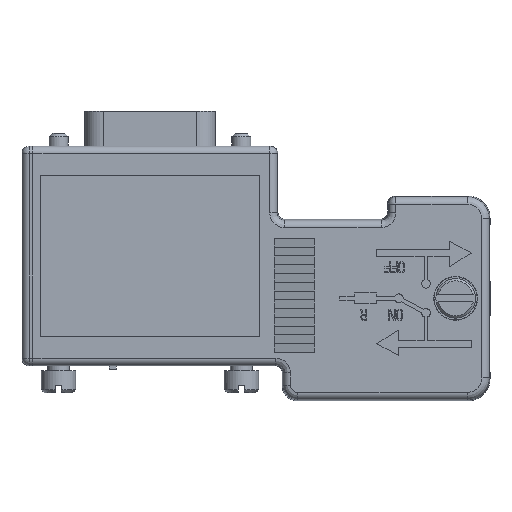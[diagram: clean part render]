
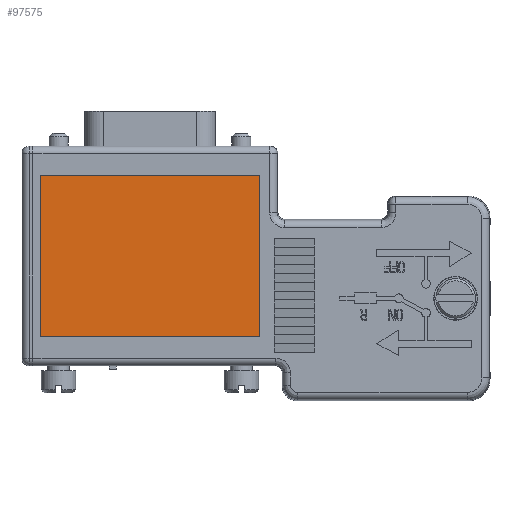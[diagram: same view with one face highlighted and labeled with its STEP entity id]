
A CAD part, top view. The second image highlights one B-rep face of the part: STEP entity #97575.
In plain terms, the highlighted planar face has unit normal (0, 0, 1).
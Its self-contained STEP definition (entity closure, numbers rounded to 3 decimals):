
#62581 = PLANE('',#62582);
#62582 = AXIS2_PLACEMENT_3D('',#62583,#62584,#62585);
#62583 = CARTESIAN_POINT('',(0.,-11.,7.7));
#62584 = DIRECTION('',(0.,-1.,0.));
#62585 = DIRECTION('',(0.,0.,-1.));
#62609 = PLANE('',#62610);
#62610 = AXIS2_PLACEMENT_3D('',#62611,#62612,#62613);
#62611 = CARTESIAN_POINT('',(-15.,0.,7.7));
#62612 = DIRECTION('',(-1.,0.,0.));
#62613 = DIRECTION('',(0.,0.,1.));
#62637 = PLANE('',#62638);
#62638 = AXIS2_PLACEMENT_3D('',#62639,#62640,#62641);
#62639 = CARTESIAN_POINT('',(0.,11.,7.7));
#62640 = DIRECTION('',(0.,1.,0.));
#62641 = DIRECTION('',(0.,0.,1.));
#62663 = PLANE('',#62664);
#62664 = AXIS2_PLACEMENT_3D('',#62665,#62666,#62667);
#62665 = CARTESIAN_POINT('',(15.,0.,7.7));
#62666 = DIRECTION('',(1.,0.,0.));
#62667 = DIRECTION('',(0.,0.,-1.));
#73587 = VERTEX_POINT('',#73588);
#73588 = CARTESIAN_POINT('',(15.,-11.,8.5));
#73609 = EDGE_CURVE('',#73610,#73587,#73612,.T.);
#73610 = VERTEX_POINT('',#73611);
#73611 = CARTESIAN_POINT('',(-15.,-11.,8.5));
#73612 = SURFACE_CURVE('',#73613,(#73617,#73624),.PCURVE_S1.);
#73613 = LINE('',#73614,#73615);
#73614 = CARTESIAN_POINT('',(-15.,-11.,8.5));
#73615 = VECTOR('',#73616,1.);
#73616 = DIRECTION('',(1.,0.,0.));
#73617 = PCURVE('',#62581,#73618);
#73618 = DEFINITIONAL_REPRESENTATION('',(#73619),#73623);
#73619 = LINE('',#73620,#73621);
#73620 = CARTESIAN_POINT('',(-0.8,-15.));
#73621 = VECTOR('',#73622,1.);
#73622 = DIRECTION('',(0.,1.));
#73623 = ( GEOMETRIC_REPRESENTATION_CONTEXT(2) 
PARAMETRIC_REPRESENTATION_CONTEXT() REPRESENTATION_CONTEXT('2D SPACE',''
  ) );
#73624 = PCURVE('',#73625,#73630);
#73625 = PLANE('',#73626);
#73626 = AXIS2_PLACEMENT_3D('',#73627,#73628,#73629);
#73627 = CARTESIAN_POINT('',(18.,-18.7,8.5));
#73628 = DIRECTION('',(0.,0.,1.));
#73629 = DIRECTION('',(0.,-1.,0.));
#73630 = DEFINITIONAL_REPRESENTATION('',(#73631),#73635);
#73631 = LINE('',#73632,#73633);
#73632 = CARTESIAN_POINT('',(-7.7,-33.));
#73633 = VECTOR('',#73634,1.);
#73634 = DIRECTION('',(0.,1.));
#73635 = ( GEOMETRIC_REPRESENTATION_CONTEXT(2) 
PARAMETRIC_REPRESENTATION_CONTEXT() REPRESENTATION_CONTEXT('2D SPACE',''
  ) );
#73663 = EDGE_CURVE('',#73664,#73610,#73666,.T.);
#73664 = VERTEX_POINT('',#73665);
#73665 = CARTESIAN_POINT('',(-15.,11.,8.5));
#73666 = SURFACE_CURVE('',#73667,(#73671,#73678),.PCURVE_S1.);
#73667 = LINE('',#73668,#73669);
#73668 = CARTESIAN_POINT('',(-15.,-18.7,8.5));
#73669 = VECTOR('',#73670,1.);
#73670 = DIRECTION('',(0.,-1.,0.));
#73671 = PCURVE('',#62609,#73672);
#73672 = DEFINITIONAL_REPRESENTATION('',(#73673),#73677);
#73673 = LINE('',#73674,#73675);
#73674 = CARTESIAN_POINT('',(0.8,-18.7));
#73675 = VECTOR('',#73676,1.);
#73676 = DIRECTION('',(0.,-1.));
#73677 = ( GEOMETRIC_REPRESENTATION_CONTEXT(2) 
PARAMETRIC_REPRESENTATION_CONTEXT() REPRESENTATION_CONTEXT('2D SPACE',''
  ) );
#73678 = PCURVE('',#73625,#73679);
#73679 = DEFINITIONAL_REPRESENTATION('',(#73680),#73684);
#73680 = LINE('',#73681,#73682);
#73681 = CARTESIAN_POINT('',(0.,-33.));
#73682 = VECTOR('',#73683,1.);
#73683 = DIRECTION('',(1.,0.));
#73684 = ( GEOMETRIC_REPRESENTATION_CONTEXT(2) 
PARAMETRIC_REPRESENTATION_CONTEXT() REPRESENTATION_CONTEXT('2D SPACE',''
  ) );
#73712 = EDGE_CURVE('',#73713,#73664,#73715,.T.);
#73713 = VERTEX_POINT('',#73714);
#73714 = CARTESIAN_POINT('',(15.,11.,8.5));
#73715 = SURFACE_CURVE('',#73716,(#73720,#73727),.PCURVE_S1.);
#73716 = LINE('',#73717,#73718);
#73717 = CARTESIAN_POINT('',(15.,11.,8.5));
#73718 = VECTOR('',#73719,1.);
#73719 = DIRECTION('',(-1.,0.,0.));
#73720 = PCURVE('',#62637,#73721);
#73721 = DEFINITIONAL_REPRESENTATION('',(#73722),#73726);
#73722 = LINE('',#73723,#73724);
#73723 = CARTESIAN_POINT('',(0.8,15.));
#73724 = VECTOR('',#73725,1.);
#73725 = DIRECTION('',(0.,-1.));
#73726 = ( GEOMETRIC_REPRESENTATION_CONTEXT(2) 
PARAMETRIC_REPRESENTATION_CONTEXT() REPRESENTATION_CONTEXT('2D SPACE',''
  ) );
#73727 = PCURVE('',#73625,#73728);
#73728 = DEFINITIONAL_REPRESENTATION('',(#73729),#73733);
#73729 = LINE('',#73730,#73731);
#73730 = CARTESIAN_POINT('',(-29.7,-3.));
#73731 = VECTOR('',#73732,1.);
#73732 = DIRECTION('',(0.,-1.));
#73733 = ( GEOMETRIC_REPRESENTATION_CONTEXT(2) 
PARAMETRIC_REPRESENTATION_CONTEXT() REPRESENTATION_CONTEXT('2D SPACE',''
  ) );
#73761 = EDGE_CURVE('',#73587,#73713,#73762,.T.);
#73762 = SURFACE_CURVE('',#73763,(#73767,#73774),.PCURVE_S1.);
#73763 = LINE('',#73764,#73765);
#73764 = CARTESIAN_POINT('',(15.,-11.,8.5));
#73765 = VECTOR('',#73766,1.);
#73766 = DIRECTION('',(0.,1.,0.));
#73767 = PCURVE('',#62663,#73768);
#73768 = DEFINITIONAL_REPRESENTATION('',(#73769),#73773);
#73769 = LINE('',#73770,#73771);
#73770 = CARTESIAN_POINT('',(-0.8,-11.));
#73771 = VECTOR('',#73772,1.);
#73772 = DIRECTION('',(0.,1.));
#73773 = ( GEOMETRIC_REPRESENTATION_CONTEXT(2) 
PARAMETRIC_REPRESENTATION_CONTEXT() REPRESENTATION_CONTEXT('2D SPACE',''
  ) );
#73774 = PCURVE('',#73625,#73775);
#73775 = DEFINITIONAL_REPRESENTATION('',(#73776),#73780);
#73776 = LINE('',#73777,#73778);
#73777 = CARTESIAN_POINT('',(-7.7,-3.));
#73778 = VECTOR('',#73779,1.);
#73779 = DIRECTION('',(-1.,0.));
#73780 = ( GEOMETRIC_REPRESENTATION_CONTEXT(2) 
PARAMETRIC_REPRESENTATION_CONTEXT() REPRESENTATION_CONTEXT('2D SPACE',''
  ) );
#97575 = ADVANCED_FACE('',(#97576),#73625,.T.);
#97576 = FACE_BOUND('',#97577,.T.);
#97577 = EDGE_LOOP('',(#97578,#97579,#97580,#97581));
#97578 = ORIENTED_EDGE('',*,*,#73712,.T.);
#97579 = ORIENTED_EDGE('',*,*,#73663,.T.);
#97580 = ORIENTED_EDGE('',*,*,#73609,.T.);
#97581 = ORIENTED_EDGE('',*,*,#73761,.T.);
